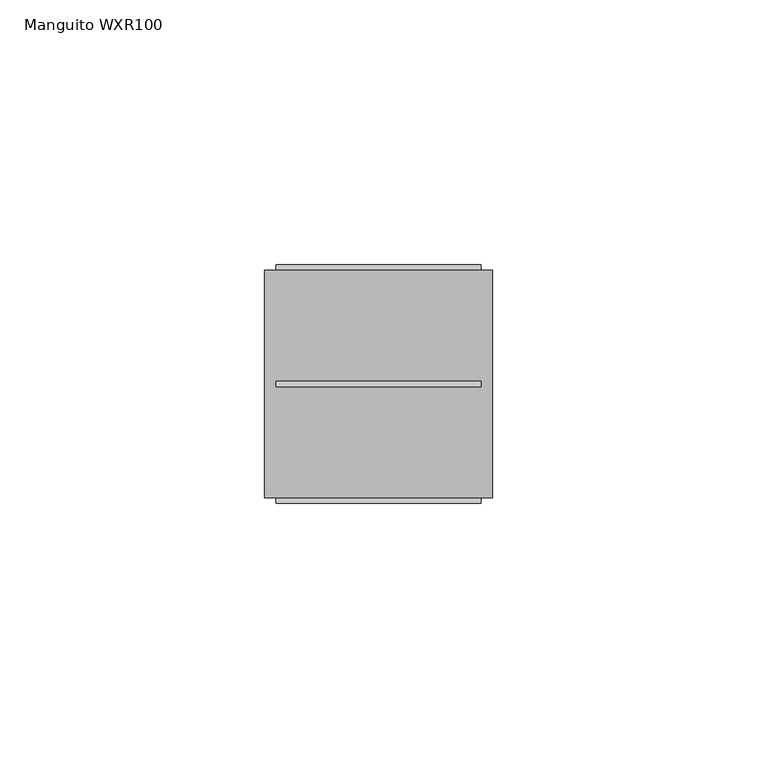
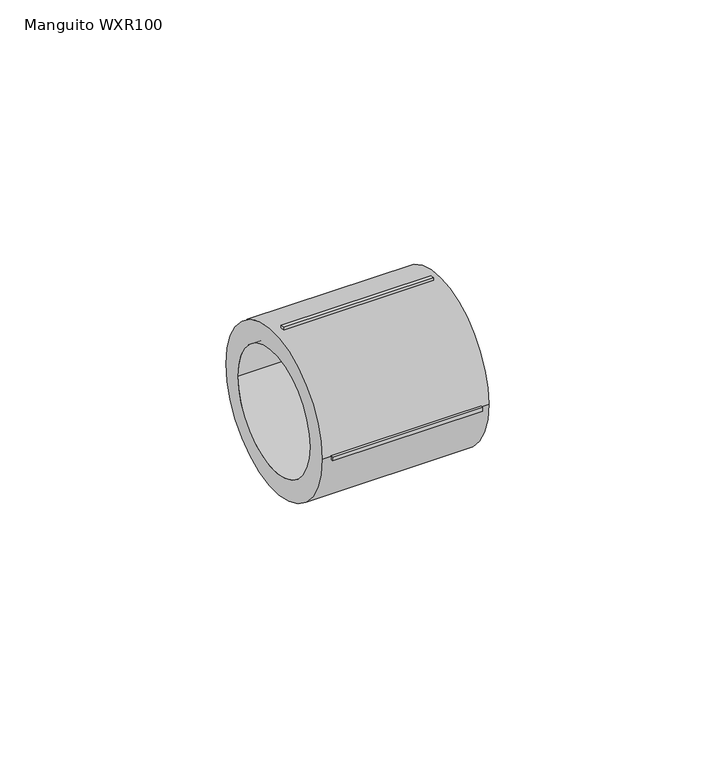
"""IFC4 building model written with IfcOpenShell, lengths in millimetres: pipe fitting geometry, EGB_VASEN_ PPR_Manguito WXR100 : Manguito WXR100."""

from ifc_helpers import new_model, si_unit, point, frame, origin, origin_2d, place, context, project, spatial, polyline, circle_curve, trimmed, segment, composite_curve, outline, extrude, source, transform, mapped, element, save


def manguito_wxr100_35a70310(model_context):
    return source(origin(), model_context, "Body", "SweptSolid", [
        extrude(outline(composite_curve([segment(trimmed(circle_curve(origin_2d(), 21.5), [point((-21.5, 0.0))], [point((21.5, 0.0))], False, "CARTESIAN"), True, "CONTINUOUS"), segment(trimmed(circle_curve(origin_2d(), 21.5), [point((21.5, 0.0))], [point((-21.5, 0.0))], False, "CARTESIAN"), True, "CONTINUOUS")], self_intersect=False), holes=[composite_curve([segment(trimmed(circle_curve(origin_2d(), 16.0), [point((-16.0, 0.0))], [point((16.0, 0.0))], True, "CARTESIAN"), True, "CONTINUOUS"), segment(trimmed(circle_curve(origin_2d(), 16.0), [point((16.0, 0.0))], [point((-16.0, 0.0))], True, "CARTESIAN"), True, "CONTINUOUS")], self_intersect=False)]), frame((-21.5, 0.0, 0.0), z_axis=(1.0, 0.0, 0.0), x_axis=(0.0, 1.0, 0.0)), (0.0, 0.0, 1.0), 43.0),
        extrude(outline(polyline([(19.35, 0.5), (19.35, -0.5), (-19.35, -0.5), (-19.35, 0.5), (19.35, 0.5)])), frame((0.0, 0.0, 20.5), z_axis=(0.0, 0.0, 1.0), x_axis=(1.0, 0.0, 0.0)), (0.0, 0.0, 1.0), 2.0),
        extrude(outline(polyline([(19.35, 0.5), (19.35, -0.5), (-19.35, -0.5), (-19.35, 0.5), (19.35, 0.5)])), frame((0.0, 0.0, -22.5), z_axis=(0.0, 0.0, 1.0), x_axis=(1.0, 0.0, 0.0)), (0.0, 0.0, 1.0), 2.0),
        extrude(outline(polyline([(19.35, 22.5), (19.35, 20.5), (-19.35, 20.5), (-19.35, 22.5), (19.35, 22.5)])), frame((0.0, 0.0, -0.5), z_axis=(0.0, 0.0, 1.0), x_axis=(1.0, 0.0, 0.0)), (0.0, 0.0, 1.0), 1.0),
        extrude(outline(polyline([(19.35, -20.5), (19.35, -22.5), (-19.35, -22.5), (-19.35, -20.5), (19.35, -20.5)])), frame((0.0, 0.0, -0.5), z_axis=(0.0, 0.0, 1.0), x_axis=(1.0, 0.0, 0.0)), (0.0, 0.0, 1.0), 1.0),
    ])


if __name__ == "__main__":
    model = new_model("IFC4")
    model_context = context("Model", 3, world=origin())
    ifc_project = project(units=[si_unit("LENGTHUNIT", "METRE", prefix="MILLI")], contexts=[model_context])
    site = spatial("IfcSite", under=ifc_project)
    building = spatial("IfcBuilding", under=site)
    placement = place(None, origin())
    manguito_wxr100_shape = manguito_wxr100_35a70310(model_context)
    element("IfcPipeFitting", 1, ObjectType="EGB_VASEN_ PPR_Manguito WXR100 : Manguito WXR100", at=placement, inside=building, context=model_context, shape_type="MappedRepresentation", body=[
        mapped(manguito_wxr100_shape, transform((0.0, 0.0, 0.0), x_axis=(1.0, 0.0, 0.0), y_axis=(0.0, 1.0, 0.0), z_axis=(0.0, 0.0, 1.0))),
    ])
    save(model, "model.ifc")
